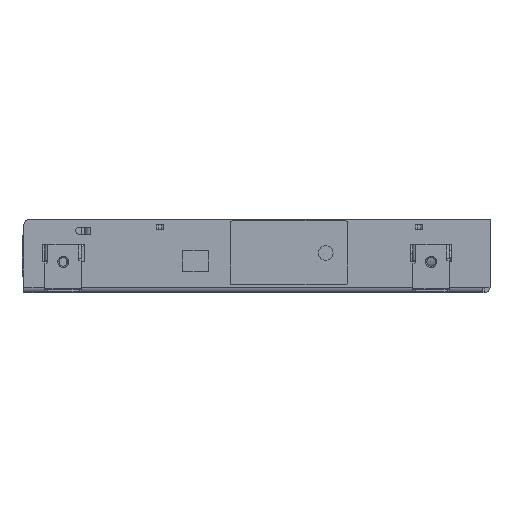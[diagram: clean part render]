
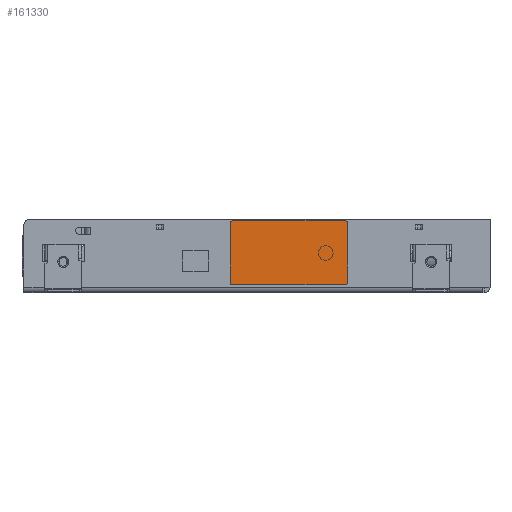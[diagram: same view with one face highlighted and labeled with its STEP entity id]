
A CAD part, front view. The second image highlights one B-rep face of the part: STEP entity #161330.
In plain terms, the highlighted planar face has unit normal (0, -1, 0).
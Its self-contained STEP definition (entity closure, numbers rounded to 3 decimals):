
#161255=CARTESIAN_POINT('',(-105.,-99.2,4.2));
#161256=DIRECTION('',(0.,1.,0.));
#161257=DIRECTION('',(0.,0.,-1.));
#161258=AXIS2_PLACEMENT_3D('',#161255,#161256,#161257);
#161260=DIRECTION('',(0.,0.,1.));
#161261=VECTOR('',#161260,24.);
#161262=CARTESIAN_POINT('',(-106.,-99.2,4.2));
#161263=LINE('',#161262,#161261);
#161264=CARTESIAN_POINT('',(-105.,-99.2,28.2));
#161265=DIRECTION('',(0.,1.,0.));
#161266=DIRECTION('',(-1.,0.,0.));
#161267=AXIS2_PLACEMENT_3D('',#161264,#161265,#161266);
#161269=DIRECTION('',(1.,0.,0.));
#161270=VECTOR('',#161269,46.);
#161271=CARTESIAN_POINT('',(-105.,-99.2,29.2));
#161272=LINE('',#161271,#161270);
#161273=CARTESIAN_POINT('',(-59.,-99.2,28.2));
#161274=DIRECTION('',(0.,1.,0.));
#161275=DIRECTION('',(0.,0.,1.));
#161276=AXIS2_PLACEMENT_3D('',#161273,#161274,#161275);
#161278=DIRECTION('',(0.,0.,-1.));
#161279=VECTOR('',#161278,24.);
#161280=CARTESIAN_POINT('',(-58.,-99.2,28.2));
#161281=LINE('',#161280,#161279);
#161282=CARTESIAN_POINT('',(-59.,-99.2,4.2));
#161283=DIRECTION('',(0.,1.,0.));
#161284=DIRECTION('',(1.,0.,0.));
#161285=AXIS2_PLACEMENT_3D('',#161282,#161283,#161284);
#161287=DIRECTION('',(-1.,0.,0.));
#161288=VECTOR('',#161287,46.);
#161289=CARTESIAN_POINT('',(-59.,-99.2,3.2));
#161290=LINE('',#161289,#161288);
#161291=CARTESIAN_POINT('',(-105.,-99.2,3.2));
#161292=CARTESIAN_POINT('',(-106.,-99.2,4.2));
#161293=VERTEX_POINT('',#161291);
#161294=VERTEX_POINT('',#161292);
#161295=CARTESIAN_POINT('',(-106.,-99.2,28.2));
#161296=VERTEX_POINT('',#161295);
#161297=CARTESIAN_POINT('',(-105.,-99.2,29.2));
#161298=VERTEX_POINT('',#161297);
#161299=CARTESIAN_POINT('',(-59.,-99.2,29.2));
#161300=VERTEX_POINT('',#161299);
#161301=CARTESIAN_POINT('',(-58.,-99.2,28.2));
#161302=VERTEX_POINT('',#161301);
#161303=CARTESIAN_POINT('',(-58.,-99.2,4.2));
#161304=VERTEX_POINT('',#161303);
#161305=CARTESIAN_POINT('',(-59.,-99.2,3.2));
#161306=VERTEX_POINT('',#161305);
#161307=CARTESIAN_POINT('',(-82.,-99.2,16.2));
#161308=DIRECTION('',(0.,1.,0.));
#161309=DIRECTION('',(1.,0.,0.));
#161310=AXIS2_PLACEMENT_3D('',#161307,#161308,#161309);
#161311=PLANE('',#161310);
#161313=ORIENTED_EDGE('',*,*,#161312,.T.);
#161315=ORIENTED_EDGE('',*,*,#161314,.T.);
#161317=ORIENTED_EDGE('',*,*,#161316,.T.);
#161319=ORIENTED_EDGE('',*,*,#161318,.T.);
#161321=ORIENTED_EDGE('',*,*,#161320,.T.);
#161323=ORIENTED_EDGE('',*,*,#161322,.T.);
#161325=ORIENTED_EDGE('',*,*,#161324,.T.);
#161327=ORIENTED_EDGE('',*,*,#161326,.T.);
#161328=EDGE_LOOP('',(#161313,#161315,#161317,#161319,#161321,#161323,#161325,
#161327));
#161329=FACE_OUTER_BOUND('',#161328,.F.);
#161259=CIRCLE('',#161258,1.);
#161268=CIRCLE('',#161267,1.);
#161277=CIRCLE('',#161276,1.);
#161286=CIRCLE('',#161285,1.);
#161312=EDGE_CURVE('',#161293,#161294,#161259,.T.);
#161314=EDGE_CURVE('',#161294,#161296,#161263,.T.);
#161316=EDGE_CURVE('',#161296,#161298,#161268,.T.);
#161318=EDGE_CURVE('',#161298,#161300,#161272,.T.);
#161320=EDGE_CURVE('',#161300,#161302,#161277,.T.);
#161322=EDGE_CURVE('',#161302,#161304,#161281,.T.);
#161324=EDGE_CURVE('',#161304,#161306,#161286,.T.);
#161326=EDGE_CURVE('',#161306,#161293,#161290,.T.);
#161330=ADVANCED_FACE('',(#161329),#161311,.F.);
